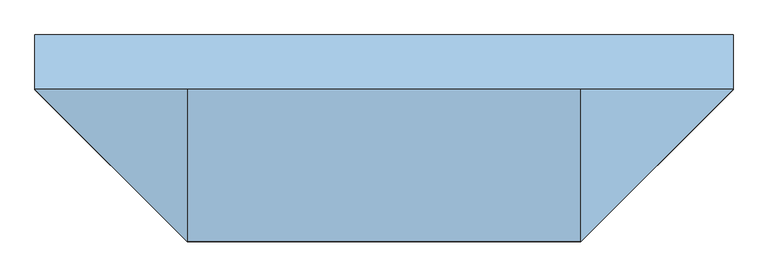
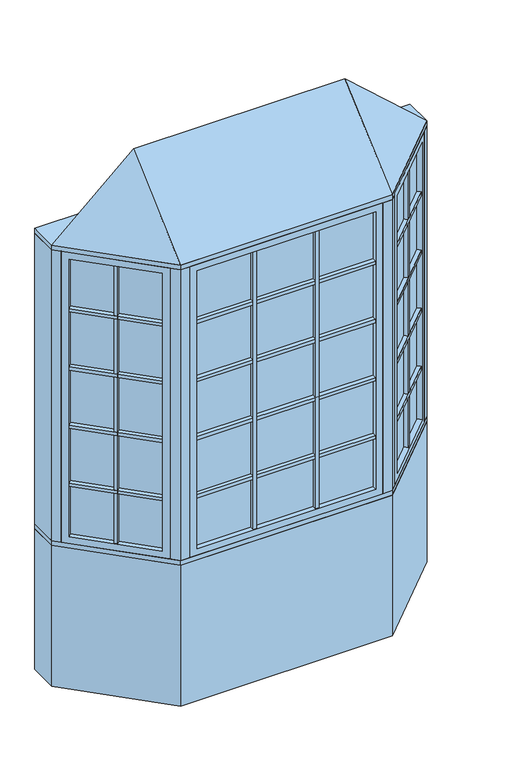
"""IFC4 building model written with IfcOpenShell, lengths in millimetres: window geometry, Pollard_Windows_Tudor Casement Bows and Bays : AML-BAY 45 AFR0616-08-500_GC."""

from ifc_helpers import new_model, si_unit, frame, origin, origin_with_axes, place, context, project, spatial, polyline, outline, extrude, faceted_brep, source, transform, mapped, element, save


def window_82674c59(model_context):
    return source(origin(), model_context, "Body", "SolidModel", [
        extrude(outline(polyline([(609.3614193, -437.1108753), (593.8050701, -421.5545261), (901.616171, -113.7434252), (917.1725202, -129.2997743), (609.3614193, -437.1108753)])), frame((0.0, 0.0, 1110.998), z_axis=(0.0, 0.0, 1.0), x_axis=(1.0, 0.0, 0.0)), (0.0, 0.0, 1.0), 18.0),
        extrude(outline(polyline([(590.2129677, -417.9624236), (574.6566185, -402.4060744), (882.4677194, -94.5949735), (898.0240686, -110.1513227), (590.2129677, -417.9624236)])), frame((0.0, 0.0, 1110.998), z_axis=(0.0, 0.0, 1.0), x_axis=(1.0, 0.0, 0.0)), (0.0, 0.0, 1.0), 18.0),
        extrude(outline(polyline([(609.3614193, -437.1108753), (593.8050701, -421.5545261), (901.616171, -113.7434252), (917.1725202, -129.2997743), (609.3614193, -437.1108753)])), frame((0.0, 0.0, 1430.998), z_axis=(0.0, 0.0, 1.0), x_axis=(1.0, 0.0, 0.0)), (0.0, 0.0, 1.0), 18.0),
        extrude(outline(polyline([(590.2129677, -417.9624236), (574.6566185, -402.4060744), (882.4677194, -94.5949735), (898.0240686, -110.1513227), (590.2129677, -417.9624236)])), frame((0.0, 0.0, 1430.998), z_axis=(0.0, 0.0, 1.0), x_axis=(1.0, 0.0, 0.0)), (0.0, 0.0, 1.0), 18.0),
        extrude(outline(polyline([(609.3614193, -437.1108753), (593.8050701, -421.5545261), (901.616171, -113.7434252), (917.1725202, -129.2997743), (609.3614193, -437.1108753)])), frame((0.0, 0.0, 1750.998), z_axis=(0.0, 0.0, 1.0), x_axis=(1.0, 0.0, 0.0)), (0.0, 0.0, 1.0), 18.0),
        extrude(outline(polyline([(590.2129677, -417.9624236), (574.6566185, -402.4060744), (882.4677194, -94.5949735), (898.0240686, -110.1513227), (590.2129677, -417.9624236)])), frame((0.0, 0.0, 1750.998), z_axis=(0.0, 0.0, 1.0), x_axis=(1.0, 0.0, 0.0)), (0.0, 0.0, 1.0), 18.0),
        extrude(outline(polyline([(609.3614193, -437.1108753), (593.8050701, -421.5545261), (901.616171, -113.7434252), (917.1725202, -129.2997743), (609.3614193, -437.1108753)])), frame((0.0, 0.0, 2070.998), z_axis=(0.0, 0.0, 1.0), x_axis=(1.0, 0.0, 0.0)), (0.0, 0.0, 1.0), 18.0),
        extrude(outline(polyline([(590.2129677, -417.9624236), (574.6566185, -402.4060744), (882.4677194, -94.5949735), (898.0240686, -110.1513227), (590.2129677, -417.9624236)])), frame((0.0, 0.0, 2070.998), z_axis=(0.0, 0.0, 1.0), x_axis=(1.0, 0.0, 0.0)), (0.0, 0.0, 1.0), 18.0),
        extrude(outline(polyline([(754.0745816, -261.2850146), (769.6309308, -276.8413638), (756.9030087, -289.5692858), (741.3466595, -274.0129366), (754.0745816, -261.2850146)])), frame((0.0, 0.0, 835.8628), z_axis=(0.0, 0.0, 1.0), x_axis=(1.0, 0.0, 0.0)), (0.0, 0.0, 1.0), 1528.2704),
        extrude(outline(polyline([(750.4824791, -257.6929121), (737.7545571, -270.4208342), (722.1982079, -254.864485), (734.92613, -242.1365629), (750.4824791, -257.6929121)])), frame((0.0, 0.0, 835.8628), z_axis=(0.0, 0.0, 1.0), x_axis=(1.0, 0.0, 0.0)), (0.0, 0.0, 1.0), 1528.2704),
        extrude(outline(polyline([(910.5964271, -104.763169), (584.824814, -430.5347822), (581.2327115, -426.9426797), (907.0043247, -101.1710666), (910.5964271, -104.763169)])), frame((0.0, 0.0, 823.1628), z_axis=(0.0, 0.0, 1.0), x_axis=(1.0, 0.0, 0.0)), (0.0, 0.0, 1.0), 1553.6704),
        faceted_brep([(901.616171, -113.7434252, 835.8628), (919.5766833, -131.7039374, 835.8628), (919.5766833, -131.7039374, 2364.1332), (901.616171, -113.7434252, 2364.1332), (907.0043247, -101.1710666, 823.1628), (910.5964271, -104.763169, 823.1628), (910.5964271, -104.763169, 2376.8332), (907.0043247, -101.1710666, 2376.8332), (880.0635563, -92.1908105, 835.8628), (898.0240686, -110.1513227, 835.8628), (898.0240686, -110.1513227, 2364.1332), (880.0635563, -92.1908105, 2364.1332), (944.9369265, -106.3436941, 799.998), (905.4237996, -66.8305672, 799.998), (905.4237996, -66.8305672, 2399.998), (944.9369265, -106.3436941, 2399.998), (611.7655823, -439.5150383, 2364.1332), (593.8050701, -421.5545261, 2364.1332), (584.824814, -430.5347822, 2376.8332), (581.2327115, -426.9426797, 2376.8332), (590.2129677, -417.9624236, 2364.1332), (572.2524554, -400.0019114, 2364.1332), (546.8922121, -425.3621547, 2399.998), (586.4053391, -464.8752816, 2399.998), (611.7655823, -439.5150383, 835.8628), (593.8050701, -421.5545261, 835.8628), (584.824814, -430.5347822, 823.1628), (581.2327115, -426.9426797, 823.1628), (590.2129677, -417.9624236, 835.8628), (572.2524554, -400.0019114, 835.8628), (546.8922121, -425.3621547, 799.998), (586.4053391, -464.8752816, 799.998)], [[[0, 1, 2, 3]], [[4, 5, 6, 7]], [[8, 9, 10, 11]], [[12, 13, 14, 15]], [[3, 2, 16, 17]], [[7, 6, 18, 19]], [[11, 10, 20, 21]], [[15, 14, 22, 23]], [[17, 16, 24, 25]], [[19, 18, 26, 27]], [[21, 20, 28, 29]], [[23, 22, 30, 31]], [[25, 24, 1, 0]], [[5, 26, 18, 6], [3, 17, 25, 0]], [[27, 26, 5, 4]], [[7, 19, 27, 4], [9, 28, 20, 10]], [[29, 28, 9, 8]], [[13, 30, 22, 14], [11, 21, 29, 8]], [[31, 30, 13, 12]], [[15, 23, 31, 12], [1, 24, 16, 2]]]),
        extrude(outline(polyline([(171.2952, -474.8306207), (171.2952, -496.8306207), (153.2952, -496.8306207), (153.2952, -474.8306207), (171.2952, -474.8306207)])), frame((0.0, 0.0, 835.8628), z_axis=(0.0, 0.0, 1.0), x_axis=(1.0, 0.0, 0.0)), (0.0, 0.0, 1.0), 1528.2704),
        extrude(outline(polyline([(171.2952, -469.7506207), (153.2952, -469.7506207), (153.2952, -447.7506207), (171.2952, -447.7506207), (171.2952, -469.7506207)])), frame((0.0, 0.0, 835.8628), z_axis=(0.0, 0.0, 1.0), x_axis=(1.0, 0.0, 0.0)), (0.0, 0.0, 1.0), 1528.2704),
        extrude(outline(polyline([(-153.2952, -474.8306207), (-153.2952, -496.8306207), (-171.2952, -496.8306207), (-171.2952, -474.8306207), (-153.2952, -474.8306207)])), frame((0.0, 0.0, 835.8628), z_axis=(0.0, 0.0, 1.0), x_axis=(1.0, 0.0, 0.0)), (0.0, 0.0, 1.0), 1528.2704),
        extrude(outline(polyline([(-153.2952, -469.7506207), (-171.2952, -469.7506207), (-171.2952, -447.7506207), (-153.2952, -447.7506207), (-153.2952, -469.7506207)])), frame((0.0, 0.0, 835.8628), z_axis=(0.0, 0.0, 1.0), x_axis=(1.0, 0.0, 0.0)), (0.0, 0.0, 1.0), 1528.2704),
        extrude(outline(polyline([(-465.1852, -496.8306207), (-465.1852, -474.8306207), (465.1852, -474.8306207), (465.1852, -496.8306207), (-465.1852, -496.8306207)])), frame((0.0, 0.0, 1110.998), z_axis=(0.0, 0.0, 1.0), x_axis=(1.0, 0.0, 0.0)), (0.0, 0.0, 1.0), 18.0),
        extrude(outline(polyline([(-465.1852, -469.7506207), (-465.1852, -447.7506207), (465.1852, -447.7506207), (465.1852, -469.7506207), (-465.1852, -469.7506207)])), frame((0.0, 0.0, 1110.998), z_axis=(0.0, 0.0, 1.0), x_axis=(1.0, 0.0, 0.0)), (0.0, 0.0, 1.0), 18.0),
        extrude(outline(polyline([(-465.1852, -496.8306207), (-465.1852, -474.8306207), (465.1852, -474.8306207), (465.1852, -496.8306207), (-465.1852, -496.8306207)])), frame((0.0, 0.0, 1430.998), z_axis=(0.0, 0.0, 1.0), x_axis=(1.0, 0.0, 0.0)), (0.0, 0.0, 1.0), 18.0),
        extrude(outline(polyline([(-465.1852, -469.7506207), (-465.1852, -447.7506207), (465.1852, -447.7506207), (465.1852, -469.7506207), (-465.1852, -469.7506207)])), frame((0.0, 0.0, 1430.998), z_axis=(0.0, 0.0, 1.0), x_axis=(1.0, 0.0, 0.0)), (0.0, 0.0, 1.0), 18.0),
        extrude(outline(polyline([(-465.1852, -496.8306207), (-465.1852, -474.8306207), (465.1852, -474.8306207), (465.1852, -496.8306207), (-465.1852, -496.8306207)])), frame((0.0, 0.0, 1750.998), z_axis=(0.0, 0.0, 1.0), x_axis=(1.0, 0.0, 0.0)), (0.0, 0.0, 1.0), 18.0),
        extrude(outline(polyline([(-465.1852, -469.7506207), (-465.1852, -447.7506207), (465.1852, -447.7506207), (465.1852, -469.7506207), (-465.1852, -469.7506207)])), frame((0.0, 0.0, 1750.998), z_axis=(0.0, 0.0, 1.0), x_axis=(1.0, 0.0, 0.0)), (0.0, 0.0, 1.0), 18.0),
        extrude(outline(polyline([(-917.1725202, -129.2997743), (-901.616171, -113.7434252), (-593.8050701, -421.5545261), (-609.3614193, -437.1108753), (-917.1725202, -129.2997743)])), frame((0.0, 0.0, 1110.998), z_axis=(0.0, 0.0, 1.0), x_axis=(1.0, 0.0, 0.0)), (0.0, 0.0, 1.0), 18.0),
        extrude(outline(polyline([(-898.0240686, -110.1513227), (-882.4677194, -94.5949735), (-574.6566185, -402.4060744), (-590.2129677, -417.9624236), (-898.0240686, -110.1513227)])), frame((0.0, 0.0, 1110.998), z_axis=(0.0, 0.0, 1.0), x_axis=(1.0, 0.0, 0.0)), (0.0, 0.0, 1.0), 18.0),
        extrude(outline(polyline([(-917.1725202, -129.2997743), (-901.616171, -113.7434252), (-593.8050701, -421.5545261), (-609.3614193, -437.1108753), (-917.1725202, -129.2997743)])), frame((0.0, 0.0, 1430.998), z_axis=(0.0, 0.0, 1.0), x_axis=(1.0, 0.0, 0.0)), (0.0, 0.0, 1.0), 18.0),
        extrude(outline(polyline([(-898.0240686, -110.1513227), (-882.4677194, -94.5949735), (-574.6566185, -402.4060744), (-590.2129677, -417.9624236), (-898.0240686, -110.1513227)])), frame((0.0, 0.0, 1430.998), z_axis=(0.0, 0.0, 1.0), x_axis=(1.0, 0.0, 0.0)), (0.0, 0.0, 1.0), 18.0),
        extrude(outline(polyline([(-917.1725202, -129.2997743), (-901.616171, -113.7434252), (-593.8050701, -421.5545261), (-609.3614193, -437.1108753), (-917.1725202, -129.2997743)])), frame((0.0, 0.0, 1750.998), z_axis=(0.0, 0.0, 1.0), x_axis=(1.0, 0.0, 0.0)), (0.0, 0.0, 1.0), 18.0),
        extrude(outline(polyline([(-898.0240686, -110.1513227), (-882.4677194, -94.5949735), (-574.6566185, -402.4060744), (-590.2129677, -417.9624236), (-898.0240686, -110.1513227)])), frame((0.0, 0.0, 1750.998), z_axis=(0.0, 0.0, 1.0), x_axis=(1.0, 0.0, 0.0)), (0.0, 0.0, 1.0), 18.0),
        extrude(outline(polyline([(-917.1725202, -129.2997743), (-901.616171, -113.7434252), (-593.8050701, -421.5545261), (-609.3614193, -437.1108753), (-917.1725202, -129.2997743)])), frame((0.0, 0.0, 2070.998), z_axis=(0.0, 0.0, 1.0), x_axis=(1.0, 0.0, 0.0)), (0.0, 0.0, 1.0), 18.0),
        extrude(outline(polyline([(-898.0240686, -110.1513227), (-882.4677194, -94.5949735), (-574.6566185, -402.4060744), (-590.2129677, -417.9624236), (-898.0240686, -110.1513227)])), frame((0.0, 0.0, 2070.998), z_axis=(0.0, 0.0, 1.0), x_axis=(1.0, 0.0, 0.0)), (0.0, 0.0, 1.0), 18.0),
        extrude(outline(polyline([(-465.1852, -496.8306207), (-465.1852, -474.8306207), (465.1852, -474.8306207), (465.1852, -496.8306207), (-465.1852, -496.8306207)])), frame((0.0, 0.0, 2070.998), z_axis=(0.0, 0.0, 1.0), x_axis=(1.0, 0.0, 0.0)), (0.0, 0.0, 1.0), 18.0),
        extrude(outline(polyline([(-465.1852, -469.7506207), (-465.1852, -447.7506207), (465.1852, -447.7506207), (465.1852, -469.7506207), (-465.1852, -469.7506207)])), frame((0.0, 0.0, 2070.998), z_axis=(0.0, 0.0, 1.0), x_axis=(1.0, 0.0, 0.0)), (0.0, 0.0, 1.0), 18.0),
        extrude(outline(polyline([(-741.3466595, -274.0129366), (-756.9030087, -289.5692858), (-769.6309308, -276.8413638), (-754.0745816, -261.2850146), (-741.3466595, -274.0129366)])), frame((0.0, 0.0, 835.8628), z_axis=(0.0, 0.0, 1.0), x_axis=(1.0, 0.0, 0.0)), (0.0, 0.0, 1.0), 1528.2704),
        extrude(outline(polyline([(-737.7545571, -270.4208342), (-750.4824791, -257.6929121), (-734.92613, -242.1365629), (-722.1982079, -254.864485), (-737.7545571, -270.4208342)])), frame((0.0, 0.0, 835.8628), z_axis=(0.0, 0.0, 1.0), x_axis=(1.0, 0.0, 0.0)), (0.0, 0.0, 1.0), 1528.2704),
        extrude(outline(polyline([(-584.824814, -430.5347822), (-910.5964271, -104.763169), (-907.0043247, -101.1710666), (-581.2327115, -426.9426797), (-584.824814, -430.5347822)])), frame((0.0, 0.0, 823.1628), z_axis=(0.0, 0.0, 1.0), x_axis=(1.0, 0.0, 0.0)), (0.0, 0.0, 1.0), 1553.6704),
        faceted_brep([(-590.2129677, -417.9624236, 2364.1332), (-572.2524554, -400.0019114, 2364.1332), (-572.2524554, -400.0019114, 835.8628), (-590.2129677, -417.9624236, 835.8628), (-584.824814, -430.5347822, 2376.8332), (-581.2327115, -426.9426797, 2376.8332), (-581.2327115, -426.9426797, 823.1628), (-584.824814, -430.5347822, 823.1628), (-611.7655823, -439.5150383, 2364.1332), (-593.8050701, -421.5545261, 2364.1332), (-593.8050701, -421.5545261, 835.8628), (-611.7655823, -439.5150383, 835.8628), (-546.8922121, -425.3621547, 2399.998), (-586.4053391, -464.8752816, 2399.998), (-586.4053391, -464.8752816, 799.998), (-546.8922121, -425.3621547, 799.998), (-880.0635563, -92.1908105, 835.8628), (-898.0240686, -110.1513227, 835.8628), (-907.0043247, -101.1710666, 823.1628), (-910.5964271, -104.763169, 823.1628), (-901.616171, -113.7434252, 835.8628), (-919.5766833, -131.7039374, 835.8628), (-944.9369265, -106.3436941, 799.998), (-905.4237996, -66.8305672, 799.998), (-880.0635563, -92.1908105, 2364.1332), (-898.0240686, -110.1513227, 2364.1332), (-907.0043247, -101.1710666, 2376.8332), (-910.5964271, -104.763169, 2376.8332), (-901.616171, -113.7434252, 2364.1332), (-919.5766833, -131.7039374, 2364.1332), (-944.9369265, -106.3436941, 2399.998), (-905.4237996, -66.8305672, 2399.998)], [[[0, 1, 2, 3]], [[4, 5, 6, 7]], [[8, 9, 10, 11]], [[12, 13, 14, 15]], [[3, 2, 16, 17]], [[7, 6, 18, 19]], [[11, 10, 20, 21]], [[15, 14, 22, 23]], [[17, 16, 24, 25]], [[19, 18, 26, 27]], [[21, 20, 28, 29]], [[23, 22, 30, 31]], [[15, 23, 31, 12], [1, 24, 16, 2]], [[25, 24, 1, 0]], [[5, 26, 18, 6], [3, 17, 25, 0]], [[27, 26, 5, 4]], [[7, 19, 27, 4], [9, 28, 20, 10]], [[29, 28, 9, 8]], [[13, 30, 22, 14], [11, 21, 29, 8]], [[31, 30, 13, 12]]]),
        extrude(outline(polyline([(477.8852, -474.8306207), (-477.8852, -474.8306207), (-477.8852, -469.7506207), (477.8852, -469.7506207), (477.8852, -474.8306207)])), frame((0.0, 0.0, 823.1628), z_axis=(0.0, 0.0, 1.0), x_axis=(1.0, 0.0, 0.0)), (0.0, 0.0, 1.0), 1553.6704),
        faceted_brep([(465.1852, -474.8306207, 835.8628), (465.1852, -500.2306207, 835.8628), (465.1852, -500.2306207, 2364.1332), (465.1852, -474.8306207, 2364.1332), (477.8852, -469.7506207, 823.1628), (477.8852, -474.8306207, 823.1628), (477.8852, -474.8306207, 2376.8332), (477.8852, -469.7506207, 2376.8332), (465.1852, -444.3506207, 835.8628), (465.1852, -469.7506207, 835.8628), (465.1852, -469.7506207, 2364.1332), (465.1852, -444.3506207, 2364.1332), (501.05, -500.2306207, 799.998), (501.05, -444.3506207, 799.998), (501.05, -444.3506207, 2399.998), (501.05, -500.2306207, 2399.998), (-465.1852, -500.2306207, 2364.1332), (-465.1852, -474.8306207, 2364.1332), (-477.8852, -474.8306207, 2376.8332), (-477.8852, -469.7506207, 2376.8332), (-465.1852, -469.7506207, 2364.1332), (-465.1852, -444.3506207, 2364.1332), (-501.05, -444.3506207, 2399.998), (-501.05, -500.2306207, 2399.998), (-465.1852, -500.2306207, 835.8628), (-465.1852, -474.8306207, 835.8628), (-477.8852, -474.8306207, 823.1628), (-477.8852, -469.7506207, 823.1628), (-465.1852, -469.7506207, 835.8628), (-465.1852, -444.3506207, 835.8628), (-501.05, -444.3506207, 799.998), (-501.05, -500.2306207, 799.998)], [[[0, 1, 2, 3]], [[4, 5, 6, 7]], [[8, 9, 10, 11]], [[12, 13, 14, 15]], [[3, 2, 16, 17]], [[7, 6, 18, 19]], [[11, 10, 20, 21]], [[15, 14, 22, 23]], [[17, 16, 24, 25]], [[19, 18, 26, 27]], [[21, 20, 28, 29]], [[23, 22, 30, 31]], [[15, 23, 31, 12], [1, 24, 16, 2]], [[25, 24, 1, 0]], [[5, 26, 18, 6], [3, 17, 25, 0]], [[27, 26, 5, 4]], [[7, 19, 27, 4], [9, 28, 20, 10]], [[29, 28, 9, 8]], [[13, 30, 22, 14], [11, 21, 29, 8]], [[31, 30, 13, 12]]]),
        faceted_brep([(976.5, -74.7806207, 2425.398), (551.05, -500.2306207, 2425.398), (-551.05, -500.2306207, 2425.398), (-976.5, -74.7806207, 2425.398), (-551.05, -74.7806207, 2806.398), (551.05, -74.7806207, 2806.398)], [[[0, 1, 2, 3]], [[3, 2, 4]], [[2, 1, 5, 4]], [[1, 0, 5]], [[0, 3, 4, 5]]]),
        extrude(outline(polyline([(-976.5, 77.6193793), (976.5, 77.6193793), (976.5, -74.7806207), (551.05, -500.2306207), (-551.05, -500.2306207), (-976.5, -74.7806207), (-976.5, 77.6193793)])), frame((0.0, 0.0, 2399.998), z_axis=(0.0, 0.0, 1.0), x_axis=(1.0, 0.0, 0.0)), (0.0, 0.0, 1.0), 25.4),
        extrude(outline(polyline([(-976.5, -74.7806207), (-976.5, 77.6193793), (-913.3738531, 77.6193793), (-913.3738531, -74.7806207), (-944.9369265, -106.3436941), (-976.5, -74.7806207)])), frame((0.0, 0.0, 799.998), z_axis=(0.0, 0.0, 1.0), x_axis=(1.0, 0.0, 0.0)), (0.0, 0.0, 1.0), 1600.0),
        extrude(outline(polyline([(976.5, 77.6193793), (976.5, -74.7806207), (944.9369265, -106.3436941), (913.3738531, -74.7806207), (913.3738531, 77.6193793), (976.5, 77.6193793)])), frame((0.0, 0.0, 799.998), z_axis=(0.0, 0.0, 1.0), x_axis=(1.0, 0.0, 0.0)), (0.0, 0.0, 1.0), 1600.0),
        extrude(outline(polyline([(551.05, -500.2306207), (501.05, -500.2306207), (501.05, -450.2306207), (530.3393219, -450.2306207), (551.05, -429.5199425), (586.4053391, -464.8752816), (551.05, -500.2306207)])), frame((0.0, 0.0, 799.998), z_axis=(0.0, 0.0, 1.0), x_axis=(1.0, 0.0, 0.0)), (0.0, 0.0, 1.0), 1600.0),
        extrude(outline(polyline([(-551.05, -500.2306207), (-586.4053391, -464.8752816), (-551.05, -429.5199425), (-530.3393219, -450.2306207), (-501.05, -450.2306207), (-501.05, -500.2306207), (-551.05, -500.2306207)])), frame((0.0, 0.0, 799.998), z_axis=(0.0, 0.0, 1.0), x_axis=(1.0, 0.0, 0.0)), (0.0, 0.0, 1.0), 1600.0),
        extrude(outline(polyline([(-551.05, -500.2306207), (-976.5, -74.7806207), (-976.5, 77.6193793), (-913.3738531, 77.6193793), (-487.9238531, -347.8306207), (487.9238531, -347.8306207), (913.3738531, 77.6193793), (976.5, 77.6193793), (976.5, -74.7806207), (551.05, -500.2306207), (-551.05, -500.2306207)])), frame((0.0, 0.0, 774.598), z_axis=(0.0, 0.0, 1.0), x_axis=(1.0, 0.0, 0.0)), (0.0, 0.0, 1.0), 25.4),
        extrude(outline(polyline([(-976.5, -74.7806207), (-976.5, 77.6193793), (-913.3738531, 77.6193793), (-487.9238531, -347.8306207), (487.9238531, -347.8306207), (913.3738531, 77.6193793), (976.5, 77.6193793), (976.5, -74.7806207), (551.05, -500.2306207), (-551.05, -500.2306207), (-976.5, -74.7806207)])), origin_with_axes(), (0.0, 0.0, 1.0), 774.598),
    ])


if __name__ == "__main__":
    model = new_model("IFC4")
    model_context = context("Model", 3, world=origin())
    ifc_project = project(units=[si_unit("LENGTHUNIT", "METRE", prefix="MILLI")], contexts=[model_context])
    site = spatial("IfcSite", under=ifc_project)
    building = spatial("IfcBuilding", under=site)
    placement = place(None, origin())
    window_shape = window_82674c59(model_context)
    element("IfcWindow", 1, ObjectType="Pollard_Windows_Tudor Casement Bows and Bays : AML-BAY 45 AFR0616-08-500_GC", at=placement, inside=building, context=model_context, shape_type="MappedRepresentation", body=[
        mapped(window_shape, transform((0.0, 0.0, 0.0), x_axis=(1.0, 0.0, 0.0), y_axis=(0.0, 1.0, 0.0), z_axis=(0.0, 0.0, 1.0))),
    ])
    save(model, "model.ifc")
